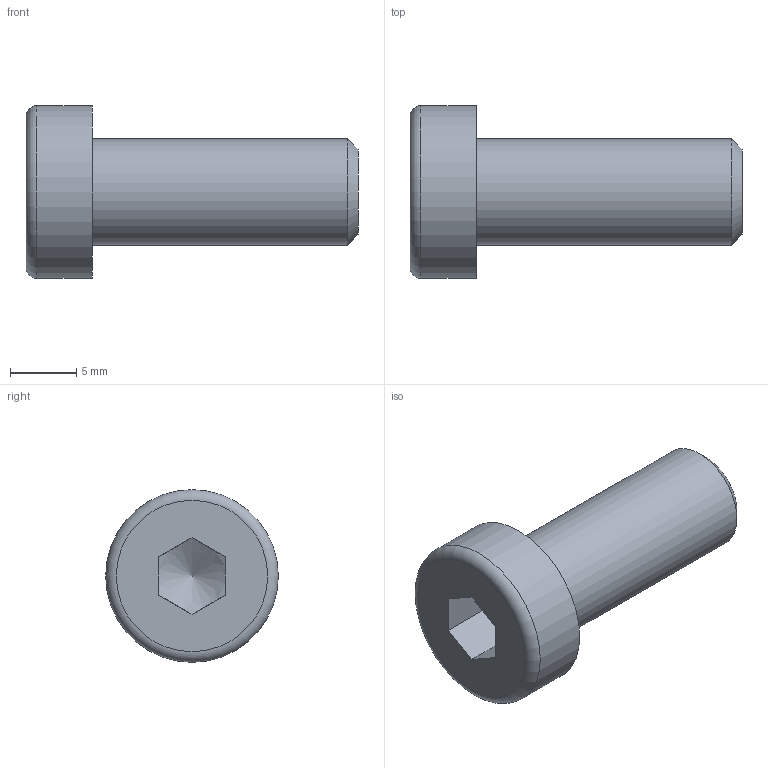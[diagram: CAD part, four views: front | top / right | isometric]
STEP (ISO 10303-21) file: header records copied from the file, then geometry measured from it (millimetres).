
FILE_DESCRIPTION((''),'2;1');
FILE_NAME('C:\Documents and Settings\Administrator\My Documents\Andys Backup Data\ANDY''S INVENTOR\INVENTOR LIBRARIES\MINITEC INVENTOR LIBRARIES\FASTENING ELEMENTS\SCREWS CAP\step\21.1202 M8X20.stp','2010-06-30T08:48:02',('Administrator'),(''),'Autodesk Inventor 2009','Autodesk Inventor 2009','');
FILE_SCHEMA(('AUTOMOTIVE_DESIGN { 1 0 10303 214 1 1 1 1 }'));
Length unit declared in the file: millimetre
Products named in the file (1): 21.1202  M8 x 20
Bounding box: 25 x 13 x 13 mm (x, y, z)
Volume: 1560.2 mm3; surface area: 1017.7 mm2
Topology: 1 solids, 1 shells, 14 faces, 30 edges, 19 vertices
Faces by surface type: plane 9, cone 2, cylinder 2, torus 1
Full cylindrical faces by diameter (mm): 8 x1, 13 x1
Entity records: 362 total; most frequent: CARTESIAN_POINT 69, DIRECTION 54, ORIENTED_EDGE 48, EDGE_CURVE 24, AXIS2_PLACEMENT_3D 21, EDGE_LOOP 20, VERTEX_POINT 18, FACE_OUTER_BOUND 14
